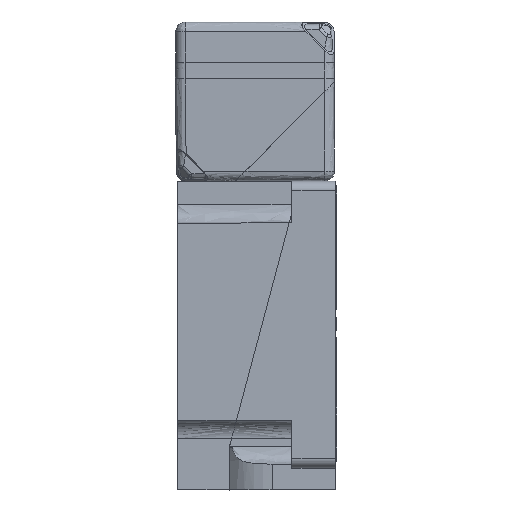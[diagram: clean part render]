
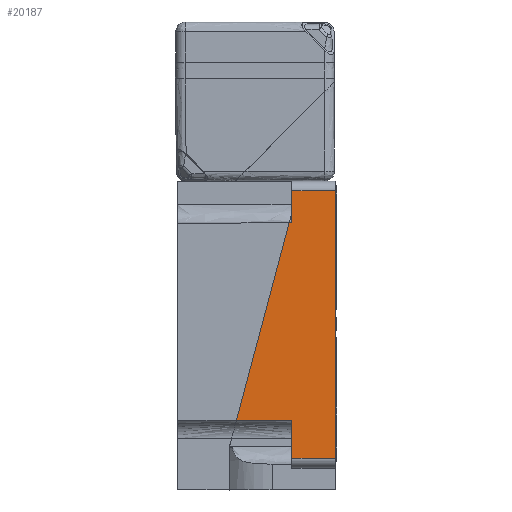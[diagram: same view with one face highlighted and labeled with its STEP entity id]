
A CAD part, left-side view. The second image highlights one B-rep face of the part: STEP entity #20187.
In plain terms, the highlighted free-form (B-spline) face has degree [1, 1] with [2, 2] control points.
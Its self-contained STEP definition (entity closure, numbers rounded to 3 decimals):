
#15622=CARTESIAN_POINT('V3020',(-2.8,20.0,-11.0));
#15623=VERTEX_POINT('V3020',#15622);
#15624=CARTESIAN_POINT('V3021',(-2.8,20.0,0.0));
#15625=VERTEX_POINT('V3021',#15624);
#15626=CARTESIAN_POINT('E56',(-2.8,20.0,-11.0));
#15627=CARTESIAN_POINT('E56',(-2.8,20.0,0.0));
#15628=B_SPLINE_CURVE_WITH_KNOTS('E56',1,(#15626,#15627),
   .POLYLINE_FORM.,.F.,.U.,(2,2),(0.0,11.0),.UNSPECIFIED.);
#15629=EDGE_CURVE('E56',#15623,#15625,#15628,.T.);
#18616=CARTESIAN_POINT('V3016',(6.7,20.0,
   -25.012));
#18617=VERTEX_POINT('V3016',#18616);
#18618=CARTESIAN_POINT('V3019',(6.7,20.0,-11.0));
#18619=VERTEX_POINT('V3019',#18618);
#18620=CARTESIAN_POINT('E54',(6.7,20.0,
   -25.012));
#18621=CARTESIAN_POINT('E54',(6.7,20.0,-11.0));
#18622=QUASI_UNIFORM_CURVE('E54',1,(#18620,#18621),.POLYLINE_FORM.,
   .F.,.U.);
#18623=EDGE_CURVE('E54',#18617,#18619,#18622,.T.);
#19333=CARTESIAN_POINT('V3022',(64.7,20.0,0.0));
#19334=VERTEX_POINT('V3022',#19333);
#19335=CARTESIAN_POINT('V2990',(64.7,20.0,-11.0));
#19336=VERTEX_POINT('V2990',#19335);
#19337=CARTESIAN_POINT('E58',(64.7,20.0,0.0));
#19338=CARTESIAN_POINT('E58',(64.7,20.0,-11.0));
#19339=B_SPLINE_CURVE_WITH_KNOTS('E58',1,(#19337,#19338),
   .POLYLINE_FORM.,.F.,.U.,(2,2),(0.0,11.0),.UNSPECIFIED.);
#19340=EDGE_CURVE('E58',#19334,#19336,#19339,.T.);
#20000=CARTESIAN_POINT('V3017',(56.7,20.0,
   -11.667));
#20001=VERTEX_POINT('V3017',#20000);
#20002=CARTESIAN_POINT('E49',(6.7,20.0,
   -25.012));
#20003=CARTESIAN_POINT('E49',(56.7,20.0,
   -11.667));
#20004=B_SPLINE_CURVE_WITH_KNOTS('E49',1,(#20002,#20003),
   .POLYLINE_FORM.,.F.,.U.,(2,2),(2.588,
   54.338),.UNSPECIFIED.);
#20005=EDGE_CURVE('E49',#18617,#20001,#20004,.T.);
#20112=CARTESIAN_POINT('V2989',(56.7,20.0,-11.0));
#20113=VERTEX_POINT('V2989',#20112);
#20119=CARTESIAN_POINT('E17',(56.7,20.0,-11.0));
#20120=CARTESIAN_POINT('E17',(64.7,20.0,-11.0));
#20121=B_SPLINE_CURVE_WITH_KNOTS('E17',1,(#20119,#20120),
   .POLYLINE_FORM.,.F.,.U.,(2,2),(2.5,
   10.5),.UNSPECIFIED.);
#20122=EDGE_CURVE('E17',#20113,#19336,#20121,.T.);
#20155=CARTESIAN_POINT('E53',(56.7,20.0,-11.0));
#20156=CARTESIAN_POINT('E53',(56.7,20.0,
   -11.667));
#20157=QUASI_UNIFORM_CURVE('E53',1,(#20155,#20156),.POLYLINE_FORM.,
   .F.,.U.);
#20158=EDGE_CURVE('E53',#20113,#20001,#20157,.T.);
#20164=CARTESIAN_POINT('F6',(-2.8,20.0,0.0));
#20165=CARTESIAN_POINT('F6',(64.7,20.0,0.0));
#20166=CARTESIAN_POINT('F6',(-2.8,20.0,
   -25.012));
#20167=CARTESIAN_POINT('F6',(64.7,20.0,
   -25.012));
#20168=B_SPLINE_SURFACE_WITH_KNOTS('F6',1,1,((#20164,#20166),(
   #20165,#20167)),.PLANE_SURF.,.F.,.F.,.U.,(2,2),(2,2),(0.0,
   67.5),(0.0,25.012),.UNSPECIFIED.);
#20169=ORIENTED_EDGE('E53',*,*,#20158,.T.);
#20170=ORIENTED_EDGE('E49',*,*,#20005,.F.);
#20171=ORIENTED_EDGE('E54',*,*,#18623,.T.);
#20172=CARTESIAN_POINT('E55',(6.7,20.0,-11.0));
#20173=CARTESIAN_POINT('E55',(-2.8,20.0,-11.0));
#20174=QUASI_UNIFORM_CURVE('E55',1,(#20172,#20173),.POLYLINE_FORM.,
   .F.,.U.);
#20175=EDGE_CURVE('E55',#18619,#15623,#20174,.T.);
#20176=ORIENTED_EDGE('E55',*,*,#20175,.T.);
#20177=ORIENTED_EDGE('E56',*,*,#15629,.T.);
#20178=CARTESIAN_POINT('E57',(-2.8,20.0,0.0));
#20179=CARTESIAN_POINT('E57',(64.7,20.0,0.0));
#20180=B_SPLINE_CURVE_WITH_KNOTS('E57',1,(#20178,#20179),
   .POLYLINE_FORM.,.F.,.U.,(2,2),(0.0,67.5),
   .UNSPECIFIED.);
#20181=EDGE_CURVE('E57',#15625,#19334,#20180,.T.);
#20182=ORIENTED_EDGE('E57',*,*,#20181,.T.);
#20183=ORIENTED_EDGE('E58',*,*,#19340,.T.);
#20184=ORIENTED_EDGE('E17',*,*,#20122,.F.);
#20185=EDGE_LOOP('F6',(#20169,#20170,#20171,#20176,#20177,#20182,
   #20183,#20184));
#20186=FACE_OUTER_BOUND('F6',#20185,.T.);
#20187=ADVANCED_FACE('F6',(#20186),#20168,.T.);
